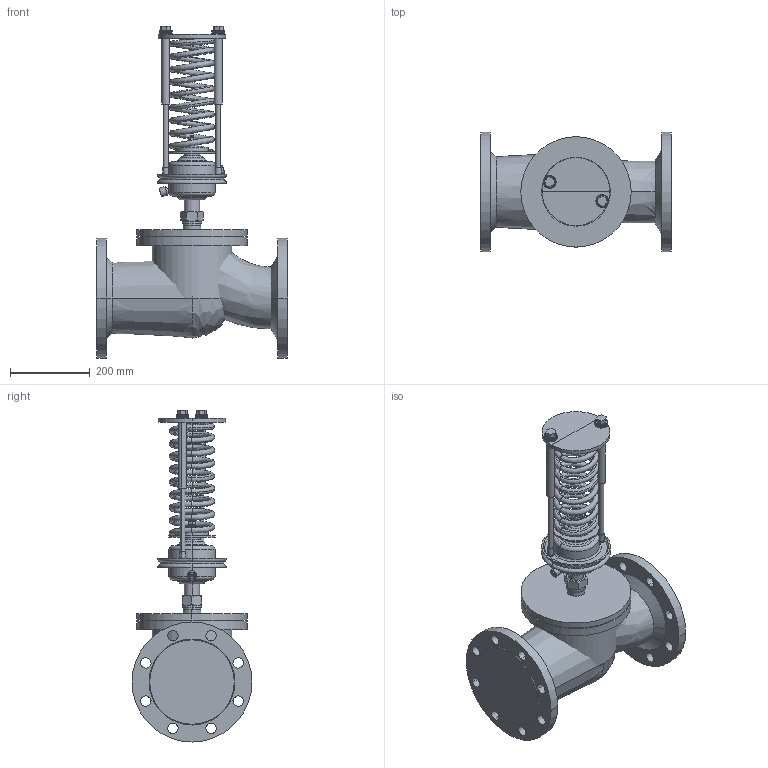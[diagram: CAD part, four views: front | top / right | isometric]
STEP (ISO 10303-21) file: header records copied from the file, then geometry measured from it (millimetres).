
FILE_DESCRIPTION(/* description */ (''),/* implementation_level */ '2;1');
FILE_NAME(/* name */ 'ETM_Регулятордавления_УРРД_НЗ_РД_DN150_PN25 0.05—0.3 МПа',/* time_stamp */ '2026-04-27T12:35:12+03:00',/* author */ (''),/* organization */ (''),/* preprocessor_version */ 'ST-DEVELOPER v20',/* originating_system */ '',/* authorisation */ '');
FILE_SCHEMA (('AP242_MANAGED_MODEL_BASED_3D_ENGINEERING_MIM_LF { 1 0 10303 442 1 1 4 }'));
Length unit declared in the file: millimetre
Products named in the file (13): TopLevelAssembly; Выдавливание; Переход; Выдавливание_
1; Переход_1; Переход_2; Переход_3; Объемная геометрия 
присоединена; Выдавливание_
2; Выдавливание_
3; Объемная геометрия 
присоединена_1; Выдавливание_
4; Пружина красная
Assembly tree (12 placements, depth 2):
  TopLevelAssembly
    Выдавливание
    Переход
    Выдавливание_
1
    Переход_1
    Переход_2
    Переход_3
    Объемная геометрия 
присоединена
    Выдавливание_
2
    Выдавливание_
3
    Объемная геометрия 
присоединена_1
    Выдавливание_
4
    Пружина красная
Bounding box: 480 x 300 x 830.2 mm (x, y, z)
Volume: 25104317 mm3; surface area: 1801919 mm2
Topology: 31 solids, 31 shells, 522 faces, 1053 edges, 573 vertices
Faces by surface type: plane 181, bspline 177, cylinder 154, cone 10
Entity records: 16710 total; most frequent: CARTESIAN_POINT 5365, DIRECTION 2393, ORIENTED_EDGE 2102, EDGE_CURVE 1051, AXIS2_PLACEMENT_3D 1006, CIRCLE 635, VERTEX_POINT 573, EDGE_LOOP 560
